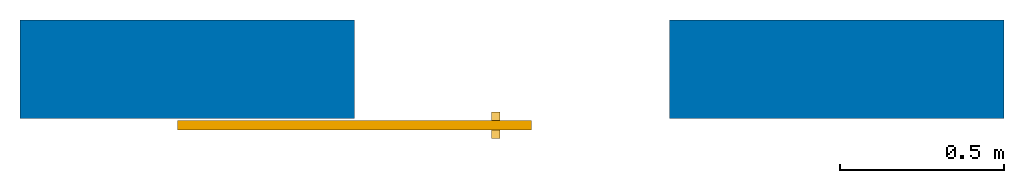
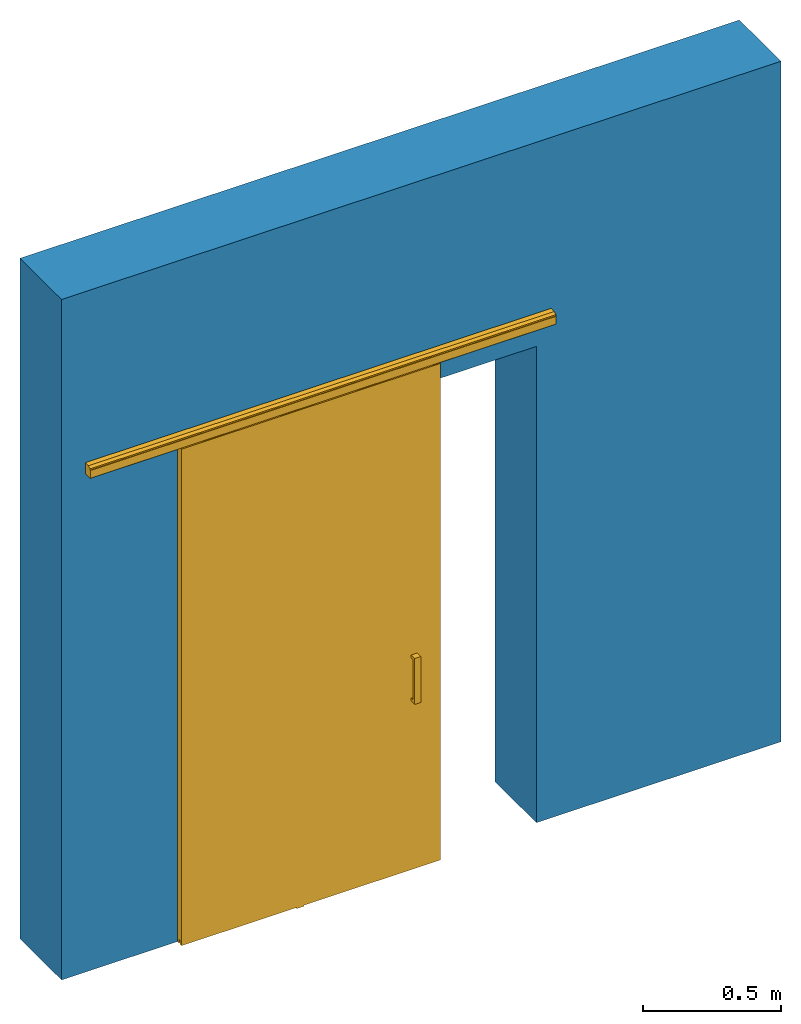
# One storey: 1 door, 1 wall, 1 opening.
"""IFC2X3 building model written with IfcOpenShell, lengths in metres."""

from ifc_helpers import new_model, entity, si_unit, converted_unit, derived_unit, direction, frame, frame_2d, origin, place, context, subcontext, project, spatial, polyline, rectangle, outline, extrude, source, transform, mapped, material, material_list, layer, layer_set, layer_usage, type_object, type_shapes, element, fill, save


model = new_model("IFC2X3")

# Units and contexts
model_context = context("Model", 3, precision=1e-05, world=origin(), true_north=direction((6.12303176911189e-17, 1.0)))
body_context = subcontext(model_context, "Body", "Model", "MODEL_VIEW")
ifc_project = project(units=[si_unit("LENGTHUNIT", "METRE"), si_unit("AREAUNIT", "SQUARE_METRE"), si_unit("VOLUMEUNIT", "CUBIC_METRE"), converted_unit("PLANEANGLEUNIT", "DEGREE", entity("IfcRatioMeasure", 0.0174532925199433), si_unit("PLANEANGLEUNIT", "RADIAN"), dimensions=[0, 0, 0, 0, 0, 0, 0]), si_unit("MASSUNIT", "GRAM", prefix="KILO"), si_unit("TIMEUNIT", "SECOND"), si_unit("FREQUENCYUNIT", "HERTZ"), si_unit("THERMODYNAMICTEMPERATUREUNIT", "DEGREE_CELSIUS"), derived_unit("THERMALTRANSMITTANCEUNIT", [(si_unit("MASSUNIT", "GRAM", prefix="KILO"), 1), (si_unit("THERMODYNAMICTEMPERATUREUNIT", "KELVIN"), -1), (si_unit("TIMEUNIT", "SECOND"), -3)]), derived_unit("VOLUMETRICFLOWRATEUNIT", [(si_unit("LENGTHUNIT", "METRE"), 3), (si_unit("TIMEUNIT", "SECOND"), -1)]), si_unit("ELECTRICCURRENTUNIT", "AMPERE"), si_unit("ELECTRICVOLTAGEUNIT", "VOLT"), si_unit("POWERUNIT", "WATT"), si_unit("FORCEUNIT", "NEWTON", prefix="KILO"), si_unit("ILLUMINANCEUNIT", "LUX"), si_unit("LUMINOUSFLUXUNIT", "LUMEN"), si_unit("LUMINOUSINTENSITYUNIT", "CANDELA"), derived_unit("USERDEFINED", [(si_unit("MASSUNIT", "GRAM", prefix="KILO"), -1), (si_unit("LENGTHUNIT", "METRE"), -2), (si_unit("TIMEUNIT", "SECOND"), 3), (si_unit("LUMINOUSFLUXUNIT", "LUMEN"), 1)]), derived_unit("LINEARVELOCITYUNIT", [(si_unit("LENGTHUNIT", "METRE"), 1), (si_unit("TIMEUNIT", "SECOND"), -1)]), si_unit("PRESSUREUNIT", "PASCAL"), derived_unit("USERDEFINED", [(si_unit("LENGTHUNIT", "METRE"), -2), (si_unit("MASSUNIT", "GRAM", prefix="KILO"), 1), (si_unit("TIMEUNIT", "SECOND"), -2)])], contexts=[model_context])

# Site, building, storey
site_placement = place(None, origin())
site = spatial("IfcSite", under=ifc_project, at=site_placement, Name="Default", CompositionType="ELEMENT")
building_placement = place(site_placement, origin())
building = spatial("IfcBuilding", under=site, at=building_placement, CompositionType="ELEMENT")
storey_placement = place(building_placement, origin())
storey = spatial("IfcBuildingStorey", under=building, at=storey_placement, Name="Nivel 1", CompositionType="ELEMENT", Elevation=0.0)

# Wall, opening, door
ifc_material_1 = material(Name="Muro por defecto")
ifc_layer = layer(ifc_material_1, 0.3)
ifc_layer_set = layer_set([ifc_layer], Name="Basic Wall:Por defecto - 30 cm")
ifc_layer_usage = layer_usage(ifc_layer_set, "AXIS2", "NEGATIVE", 0.15)
wall_type = type_object("IfcWallType", Name="Basic Wall:Por defecto - 30 cm", PredefinedType="STANDARD", material=ifc_layer_set)
wall_placement = place(storey_placement, frame((-2.65000341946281, 0.286891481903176, 0.0)))
wall = element("IfcWallStandardCase", 1, at=wall_placement, inside=storey, type_object=wall_type, material=ifc_layer_usage, Name="Basic Wall:Por defecto - 30 cm", ObjectType="Basic Wall:Por defecto - 30 cm", context=body_context, shape_type="SweptSolid", body=[
    extrude(rectangle(XDim=3.0, YDim=0.3, at=frame_2d((1.5, 0.0), x_axis=(-1.0, 0.0))), origin(), (0.0, 0.0, 1.0), 3.0),
])
opening_placement = place(wall_placement, frame((1.02, -0.150000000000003, 0.0)))
opening = element("IfcOpeningElement", 2, at=opening_placement, cuts=wall, Name="EU-2015_Door_Klein_Lite+100-KSC:Default:1", ObjectType="Opening", context=body_context, shape_type="SweptSolid", body=[
    extrude(rectangle(XDim=2.09999999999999, YDim=0.96, at=frame_2d((1.04999999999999, 0.48), x_axis=(1.0, 0.0))), frame((0.0, 0.0, 0.0), z_axis=(0.0, 1.0, 0.0), x_axis=(0.0, 0.0, 1.0)), (0.0, 0.0, 1.0), 0.3),
])
ifc_material_2 = material(Name="Aluminium, Anodized Silver")
ifc_material_3 = material(Name="Acetal Resin-Black")
ifc_material_4 = material(Name="Acetal Resin-White")
ifc_material_5 = material(Name="Birch, Natural")
ifc_material_list_1 = material_list([ifc_material_2, ifc_material_3, ifc_material_4, ifc_material_5])
ifc_material_list_2 = material_list([ifc_material_2, ifc_material_3, ifc_material_4, ifc_material_5])
door_style = type_object("IfcDoorStyle", Name="Default", ConstructionType="NOTDEFINED", OperationType="NOTDEFINED", ParameterTakesPrecedence=False, Sizeable=False, material=ifc_material_list_2)
shared_shape = source(origin(), body_context, "Body", "SweptSolid", [
    extrude(outline(polyline([(-0.1016, -0.00952500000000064), (-0.0889, -0.00952500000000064), (-0.0889, 0.00317499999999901), (0.0889000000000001, 0.0031749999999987), (0.0889, -0.00952499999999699), (0.1016, -0.00952499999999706), (0.1016, 0.0158749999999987), (-0.1016, 0.015874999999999), (-0.1016, -0.00952500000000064)])), frame((0.417300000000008, 0.0035249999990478, 0.849999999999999), z_axis=(1.0, 0.0, 0.0), x_axis=(0.0, 0.0, -1.0)), (0.0, 0.0, 1.0), 0.0253999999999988),
    extrude(outline(polyline([(-0.00952500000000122, -0.1016), (0.0158749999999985, -0.1016), (0.0158749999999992, 0.1016), (-0.00952499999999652, 0.1016), (-0.00952499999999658, 0.0889000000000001), (0.00317499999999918, 0.0889000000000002), (0.00317499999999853, -0.0888999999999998), (-0.00952500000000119, -0.0888999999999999), (-0.00952500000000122, -0.1016)])), frame((0.417300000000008, -0.0455250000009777, 0.85), z_axis=(1.0, 0.0, 0.0), x_axis=(0.0, -1.0, 0.0)), (0.0, 0.0, 1.0), 0.0253999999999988),
    extrude(outline(polyline([(-0.0109447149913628, -0.022134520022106), (0.0114468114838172, -0.022134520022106), (0.0240554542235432, -0.0159848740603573), (0.0240554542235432, -0.010159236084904), (-0.004944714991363, -0.010159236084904), (-0.004944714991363, -0.00740434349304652), (-0.00894471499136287, -0.00740434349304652), (-0.00894471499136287, 0.0228452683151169), (-0.004944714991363, 0.0228452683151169), (-0.004944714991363, 0.024845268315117), (-0.0109447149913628, 0.024845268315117), (-0.0109447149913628, -0.022134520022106)]), holes=[polyline([(-0.00894471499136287, -0.0201345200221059), (-0.00894471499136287, -0.0121592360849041), (0.00540535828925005, -0.0121592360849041), (0.00540535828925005, -0.0201345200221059), (-0.00894471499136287, -0.0201345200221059)]), polyline([(0.0147054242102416, -0.018319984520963), (0.0147054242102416, -0.0121592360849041), (0.0220554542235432, -0.0121592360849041), (0.0220554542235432, -0.0147351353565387), (0.0147054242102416, -0.018319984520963)])]), frame((-0.920000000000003, -0.0109447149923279, 2.22384076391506), z_axis=(1.0, 0.0, 0.0), x_axis=(0.0, -1.0, 0.0)), (0.0, 0.0, 1.0), 1.94),
    extrude(outline(polyline([(0.0131033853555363, 0.00573386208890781), (0.0151033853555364, 0.00573386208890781), (0.0151033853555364, 0.0139832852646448), (0.0141033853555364, 0.0149832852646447), (-0.0198966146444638, 0.0149832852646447), (-0.0208966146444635, 0.0139832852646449), (-0.0208966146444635, -0.0140167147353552), (-0.0198966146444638, -0.0150167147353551), (0.0141033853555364, -0.0150167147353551), (0.0151033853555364, -0.0140167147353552), (0.0151033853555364, -0.005566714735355), (0.0131033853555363, -0.005566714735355), (0.0131033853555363, -0.00876671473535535), (0.0103811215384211, -0.00876671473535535), (0.0103811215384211, -0.0135167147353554), (-0.0155446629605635, -0.0135167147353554), (-0.0155446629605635, -0.00724420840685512), (-0.0193966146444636, -0.00724420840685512), (-0.0193966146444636, 0.0072107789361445), (-0.0155446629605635, 0.0072107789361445), (-0.0155446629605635, 0.0134832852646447), (0.0103811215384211, 0.0134832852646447), (0.0103811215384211, 0.00873328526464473), (0.0131033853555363, 0.00873328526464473), (0.0131033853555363, 0.00573386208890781)])), frame((-0.919999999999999, -0.0209832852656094, 2.21310338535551), z_axis=(1.0, 0.0, 0.0), x_axis=(0.0, 0.0, -1.0)), (0.0, 0.0, 1.0), 1.94),
    extrude(outline(polyline([(0.00875776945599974, 0.00466444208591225), (0.0115453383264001, 0.00466444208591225), (0.0115453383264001, 0.0273554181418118), (-0.0115546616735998, 0.0273554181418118), (-0.0115546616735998, 0.00466444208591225), (-0.00875466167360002, 0.00466444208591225), (-0.00875466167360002, 0.000664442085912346), (-0.00403311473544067, 0.000664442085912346), (-0.00403311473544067, -0.00533772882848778), (-0.00790466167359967, -0.00533772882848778), (-0.00790466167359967, -0.0273377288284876), (0.00789533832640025, -0.0273377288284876), (0.00789533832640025, -0.00533772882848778), (0.00404865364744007, -0.00533772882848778), (0.00404865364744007, 0.000664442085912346), (0.00875776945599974, 0.000664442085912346), (0.00875776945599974, 0.00466444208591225)])), frame((-0.540000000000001, -0.0209953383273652, 2.19933555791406), z_axis=(1.0, 0.0, 0.0), x_axis=(0.0, 1.0, 0.0)), (0.0, 0.0, 1.0), 1.08),
    extrude(outline(polyline([(0.000101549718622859, -0.0191077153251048), (0.0141299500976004, -0.0191077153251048), (0.0166837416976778, -0.013871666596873), (-0.00848264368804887, -0.00159720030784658), (-0.00894306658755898, -0.000260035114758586), (0.00596352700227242, 0.0303030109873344), (0.000570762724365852, 0.0329332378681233), (-0.0200238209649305, -0.00929191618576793), (0.000101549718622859, -0.0191077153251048)])), frame((1.02, -0.0139239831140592, 2.2288458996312), z_axis=(1.0, 0.0, 0.0), x_axis=(0.0, -0.898794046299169, -0.438371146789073)), (0.0, 0.0, 1.0), 0.000999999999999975),
    extrude(outline(polyline([(0.000101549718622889, -0.0191077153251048), (0.0141299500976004, -0.0191077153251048), (0.0166837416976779, -0.013871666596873), (-0.00848264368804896, -0.00159720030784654), (-0.00894306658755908, -0.000260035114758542), (0.00596352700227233, 0.0303030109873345), (0.000570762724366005, 0.0329332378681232), (-0.0200238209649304, -0.009291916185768), (0.000101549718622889, -0.0191077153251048)])), frame((-0.921000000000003, -0.0139239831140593, 2.2288458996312), z_axis=(1.0, 0.0, 0.0), x_axis=(0.0, -0.898794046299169, -0.438371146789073)), (0.0, 0.0, 1.0), 0.00100000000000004),
    extrude(outline(polyline([(-0.00282842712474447, -0.0226274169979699), (-0.00141421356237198, -0.0226274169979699), (0.0226274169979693, 0.00141421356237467), (0.0226274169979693, 0.00282842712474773), (0.00282842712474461, 0.0226274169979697), (0.00141421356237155, 0.0226274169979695), (-0.0226274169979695, -0.00141421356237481), (-0.0226274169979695, -0.00282842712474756), (-0.00282842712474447, -0.0226274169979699)])), frame((1.02, -0.0210000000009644, 2.21599999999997), z_axis=(1.0, 0.0, 0.0), x_axis=(0.0, -0.707106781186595, -0.7071067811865)), (0.0, 0.0, 1.0), 0.000999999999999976),
    extrude(outline(polyline([(-0.0140000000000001, -0.0180000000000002), (0.014, -0.0180000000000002), (0.0149999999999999, -0.0170000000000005), (0.0149999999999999, 0.0169999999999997), (0.0139999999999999, 0.0179999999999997), (-0.0140000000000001, 0.0179999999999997), (-0.0149999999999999, 0.0169999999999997), (-0.0149999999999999, -0.0170000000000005), (-0.0140000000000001, -0.0180000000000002)])), frame((-0.920999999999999, -0.0210000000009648, 2.21599999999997), z_axis=(1.0, 0.0, 0.0), x_axis=(0.0, -1.0, 0.0)), (0.0, 0.0, 1.0), 0.00100000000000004),
    extrude(outline(polyline([(-0.015, -1.09533224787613), (-0.00789999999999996, -1.09533224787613), (-0.00789999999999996, -1.07333224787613), (0.00789999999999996, -1.07333224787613), (0.00789999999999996, -1.09533224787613), (0.015, -1.09533224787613), (0.015, 1.09366558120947), (0.00450000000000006, 1.09366558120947), (0.00450000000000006, 1.07666558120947), (-0.00450000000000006, 1.07666558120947), (-0.00450000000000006, 1.09366558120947), (-0.015, 1.09366558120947), (-0.015, -1.09533224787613)])), frame((-0.540000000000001, -0.0210000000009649, 1.09866558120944), z_axis=(1.0, 0.0, 0.0), x_axis=(0.0, -1.0, 0.0)), (0.0, 0.0, 1.0), 1.08),
    extrude(outline(polyline([(0.00450000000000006, 0.00300000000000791), (0.015, 0.00300000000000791), (0.015, 0.00799999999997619), (-0.015, 0.00799999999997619), (-0.015, 0.00300000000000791), (-0.00450000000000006, 0.00300000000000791), (-0.00450000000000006, -0.013999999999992), (0.00450000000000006, -0.013999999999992), (0.00450000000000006, 0.00300000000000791)])), frame((-0.0600000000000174, -0.0210000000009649, 0.00799999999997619), z_axis=(1.0, 0.0, 0.0), x_axis=(0.0, -1.0, 0.0)), (0.0, 0.0, 1.0), 0.03),
])
type_shapes(door_style, [shared_shape])
door_placement = place(opening_placement, origin())
door = element("IfcDoor", 3, at=door_placement, inside=storey, type_object=door_style, material=ifc_material_list_1, Name="EU-2015_Door_Klein_Lite+100-KSC:Default", ObjectType="Default", OverallHeight=2.09999999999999, OverallWidth=0.96, context=body_context, shape_type="MappedRepresentation", body=[
    mapped(shared_shape, transform((0.0, 0.0, 0.0), scale=1.0)),
])
fill(opening, door)

save(model, "model.ifc")
